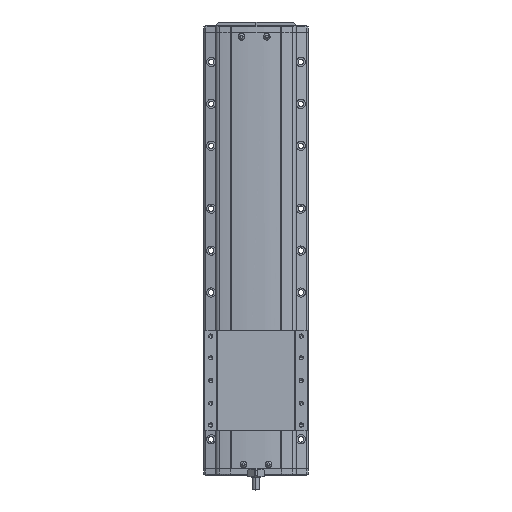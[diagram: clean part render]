
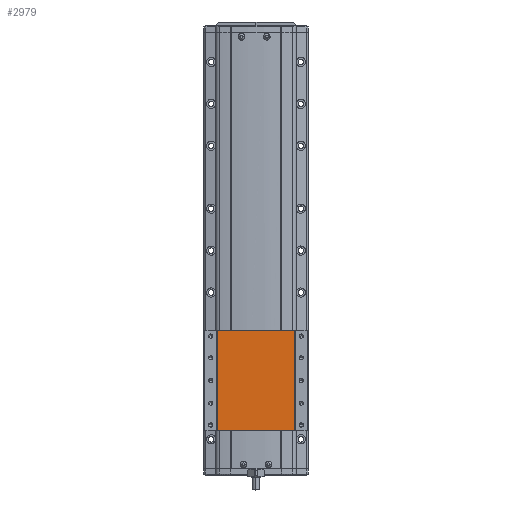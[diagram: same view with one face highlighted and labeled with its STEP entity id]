
A CAD part, top view. The second image highlights one B-rep face of the part: STEP entity #2979.
In plain terms, the highlighted planar face has unit normal (0, 0, 1).
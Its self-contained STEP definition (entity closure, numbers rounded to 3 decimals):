
#2979=ADVANCED_FACE('',(#7314),#7315,.F.);
#7314=FACE_OUTER_BOUND('',#13623,.T.);
#7315=PLANE('',#13624);
#13623=EDGE_LOOP('',(#23734,#23735,#23736,#23737));
#13624=AXIS2_PLACEMENT_3D('',#23738,#23739,#23740);
#23734=ORIENTED_EDGE('',*,*,#38881,.F.);
#23735=ORIENTED_EDGE('',*,*,#38882,.F.);
#23736=ORIENTED_EDGE('',*,*,#38883,.F.);
#23737=ORIENTED_EDGE('',*,*,#38139,.T.);
#23738=CARTESIAN_POINT('',(-300.,-82.778,36.5));
#23739=DIRECTION('',(0.,0.,-1.0));
#23740=DIRECTION('',(-1.0,0.,0.));
#38139=EDGE_CURVE('',#46518,#46515,#46519,.T.);
#38881=EDGE_CURVE('',#47737,#46515,#47738,.T.);
#38882=EDGE_CURVE('',#47739,#47737,#47740,.T.);
#38883=EDGE_CURVE('',#46518,#47739,#47741,.T.);
#46515=VERTEX_POINT('',#58149);
#46518=VERTEX_POINT('',#58152);
#46519=LINE('',#58153,#58154);
#47737=VERTEX_POINT('',#60105);
#47738=LINE('',#60106,#60107);
#47739=VERTEX_POINT('',#60108);
#47740=LINE('',#60109,#60110);
#47741=LINE('',#60111,#60112);
#58149=CARTESIAN_POINT('',(-253.624,37.222,36.5));
#58152=CARTESIAN_POINT('',(-253.624,-82.778,36.5));
#58153=CARTESIAN_POINT('',(-253.624,-82.778,36.5));
#58154=VECTOR('',#70010,10.0);
#60105=CARTESIAN_POINT('',(-346.376,37.222,36.5));
#60106=CARTESIAN_POINT('',(-253.624,37.222,36.5));
#60107=VECTOR('',#70831,10.0);
#60108=CARTESIAN_POINT('',(-346.376,-82.778,36.5));
#60109=CARTESIAN_POINT('',(-346.376,-82.778,36.5));
#60110=VECTOR('',#70832,10.0);
#60111=CARTESIAN_POINT('',(-253.624,-82.778,36.5));
#60112=VECTOR('',#70833,10.0);
#70010=DIRECTION('',(0.,1.0,0.));
#70831=DIRECTION('',(1.0,0.,0.));
#70832=DIRECTION('',(0.,1.0,0.));
#70833=DIRECTION('',(-1.0,0.,0.));
